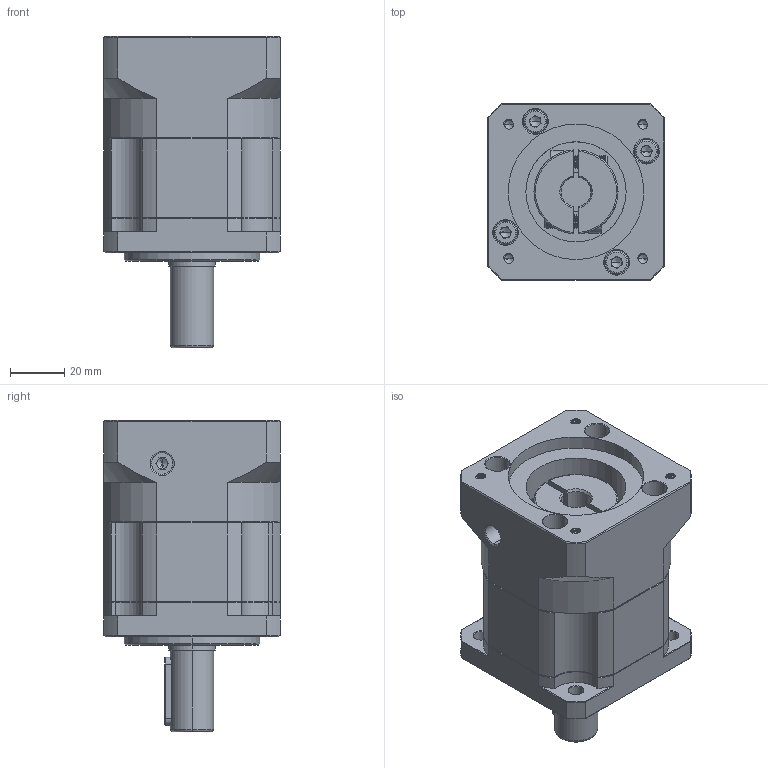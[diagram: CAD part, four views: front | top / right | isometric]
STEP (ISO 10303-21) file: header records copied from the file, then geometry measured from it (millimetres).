
FILE_DESCRIPTION (( 'STEP AP214' ), '1' );
FILE_NAME ('ZB060-D16-L1-P2-11-50-70-M4.step', '2023-08-16T07:04:06', ( '' ), ( '' ), 'SwSTEP 2.0', 'SolidWorks 2016', '' );
FILE_SCHEMA (( 'AUTOMOTIVE_DESIGN' ));
Length unit declared in the file: millimetre
Products named in the file (1): ZB060-D16-L1-P2-11-50-70-M4
Bounding box: 65 x 65 x 115 mm (x, y, z)
Volume: 270903.8 mm3; surface area: 54741.5 mm2
Topology: 6 solids, 6 shells, 2152 faces, 5796 edges, 3732 vertices
Faces by surface type: plane 1059, bspline 397, cylinder 381, cone 281, torus 34
Entity records: 114760 total; most frequent: CARTESIAN_POINT 40209, ORIENTED_EDGE 11532, DIRECTION 9080, EDGE_CURVE 5766, VERTEX_POINT 3732, LINE 3634, VECTOR 3634, AXIS2_PLACEMENT_3D 2723
